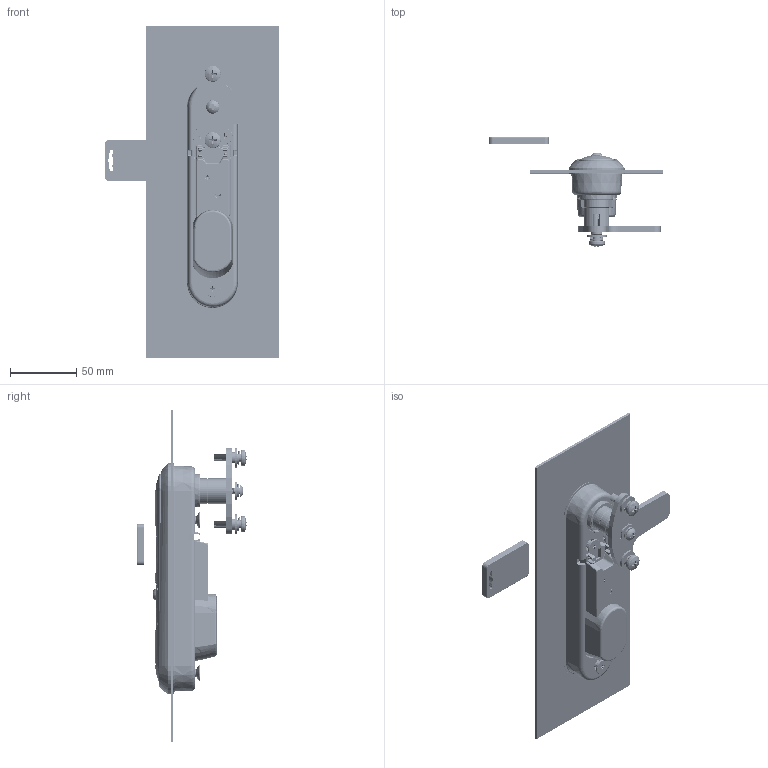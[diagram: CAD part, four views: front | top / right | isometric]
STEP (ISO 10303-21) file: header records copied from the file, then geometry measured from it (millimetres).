
FILE_DESCRIPTION((''),'2;1');
FILE_NAME('MS899DZS_ASM_ASM','2017-06-27T',('Administrator'),(''),'PRO/ENGINEER BY PARAMETRIC TECHNOLOGY CORPORATION, 2011310','PRO/ENGINEER BY PARAMETRIC TECHNOLOGY CORPORATION, 2011310','');
FILE_SCHEMA(('CONFIG_CONTROL_DESIGN'));
Products named in the file (54): JZ-100315______62_108; SKH-100323_11_11; XJQ-12-411_8_3; DGZ_5; SKQ-100607______ASM_28_ASM_39_ASM; M4X6CHENTOULUODING_14_1; M2X5_SZCT_7; XIAOZI_1_22_9; KKDQ_4_1; TH_15_1; SHUAN_ASM_6_ASM_1_ASM; DCT_ASM_246_ASM_8_ASM; EVA_1_5; GAI_155; DCT_ASM_ASM_96_ASM; M2X8_SZCT_2; JIZUOZHUJIAN_ASM_24_ASM_171_ASM; SKUAN-100323_10_2; SGLD-081222_GB_GB_SOCKET_TYPE7_; CT-100322______6_1; E_RINGS_GB_GB_CONNECTING_PIECE_; DZSK080916______6_1; LOCKINGDOG_TC03-5_3_2; 211-9002A107______ASM_12_ASM_2_ASM; SG-100322______6_2; SB-100322______36_6; M4X14CHENGTOULUODING_8_1; ZO-081222______5_3; ZO-ZP-100323______ASM_2_ASM_5_ASM; ASM0001_ASM_15_ASM_6_ASM; ZHUANZHOUNIUHUANG_7_1; ZX-081219_GB_PARALLEL_PINS_TYPE; SHOUBINGZUJIAN_ASM_13_ASM_2_ASM; YB-100322______16_34; M6X12ZUHELUODING_8_3; FASTENER_2_1; GB-T_3452_1_16X1_8-A___6_1; 8SJ_MS864-8_0502_2_3; M6X35LUODING_7_1; PRT0010_9_1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
Assembly tree (66 placements, depth 8):
  MS899DZS_ASM_ASM
    MS899DZS_ASM_109_ASM
      MS899CD_ASM_24_ASM_15_ASM
        JIZUOZHUJIAN_ASM_24_ASM_171_ASM
          JZ-100315______62_108
          SKQ-100607______ASM_28_ASM_39_ASM
            SKH-100323_11_11
            XJQ-12-411_8_3
            DGZ_5
          M4X6CHENTOULUODING_14_1  x2
          M2X5_SZCT_7  x4
          DCT_ASM_ASM_96_ASM
            DCT_ASM_246_ASM_8_ASM
              SHUAN_ASM_6_ASM_1_ASM
                XIAOZI_1_22_9
                KKDQ_4_1
                TH_15_1
            EVA_1_5
            GAI_155
          M2X8_SZCT_2  x2
          GAI_155
        SHOUBINGZUJIAN_ASM_13_ASM_2_ASM
          ASM0001_ASM_15_ASM_6_ASM
            SKUAN-100323_10_2
            SGLD-081222_GB_GB_SOCKET_TYPE7_
            CT-100322______6_1
            E_RINGS_GB_GB_CONNECTING_PIECE_
            211-9002A107______ASM_12_ASM_2_ASM
              DZSK080916______6_1
              LOCKINGDOG_TC03-5_3_2
            SG-100322______6_2
            SB-100322______36_6
            M4X14CHENGTOULUODING_8_1
            ZO-ZP-100323______ASM_2_ASM_5_ASM
              ZO-081222______5_3
          ZHUANZHOUNIUHUANG_7_1
          ZX-081219_GB_PARALLEL_PINS_TYPE
        YB-100322______16_34
        M6X12ZUHELUODING_8_3  x3
        FASTENER_2_1
        GB-T_3452_1_16X1_8-A___6_1
        8SJ_MS864-8_0502_2_3  x3
        M6X40GBT9074_4_ASM_8_ASM_1_ASM
          M6X35LUODING_7_1
          PRT0010_9_1
          M6DIANPIAN_8_1
      DCT_ASM_ASM_96_ASM
        DCT_ASM_246_ASM_8_ASM
          SHUAN_ASM_6_ASM_1_ASM
            XIAOZI_1_22_9
            KKDQ_4_1
            TH_15_1
        EVA_1_5
        GAI_155
      DOOR_7
      IC_KA_2
      GANGSHUANZUJIAN_ASM_6_ASM_1_ASM
        PRT0009_2_2
        LIANJIEJIAN_1_1  x2
        M5X20_1_ASM_2_ASM  x2
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Bounding box: 131.12 x 82.3 x 250 mm (x, y, z)
Volume: 200638.6 mm3; surface area: 186614.9 mm2
Topology: 58 solids, 71 shells, 4659 faces, 11937 edges, 7404 vertices
Faces by surface type: cylinder 1800, plane 1097, bspline 834, torus 463, cone 388, sphere 76, revolution 1
Entity records: 153968 total; most frequent: CARTESIAN_POINT 82370, ORIENTED_EDGE 15672, DIRECTION 13663, EDGE_CURVE 7851, AXIS2_PLACEMENT_3D 5350, VERTEX_POINT 4952, EDGE_LOOP 3223, FACE_OUTER_BOUND 3049
